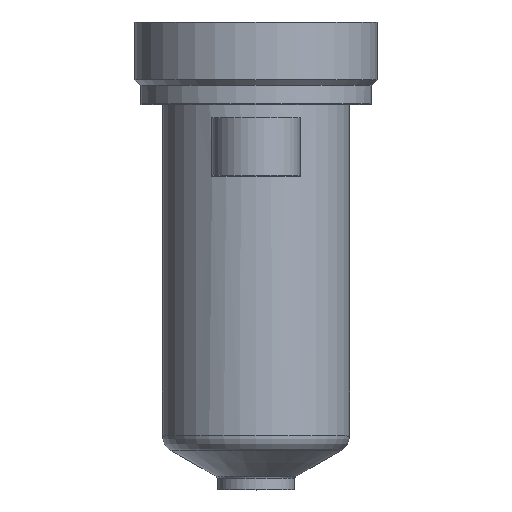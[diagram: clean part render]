
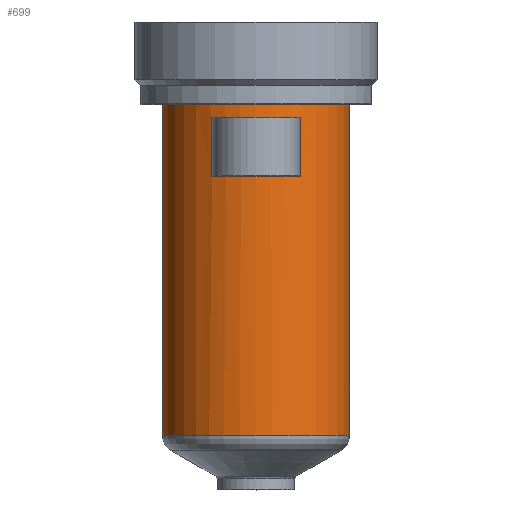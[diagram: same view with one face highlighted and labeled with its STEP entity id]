
A CAD part, top view. The second image highlights one B-rep face of the part: STEP entity #699.
In plain terms, the highlighted cylindrical face has radius 17 mm (diameter 34 mm), a partial arc.
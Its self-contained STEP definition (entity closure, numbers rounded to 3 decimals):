
#191=DIRECTION('',(0.,-1.,0.));
#192=VECTOR('',#191,60.206);
#193=CARTESIAN_POINT('',(17.,0.,0.));
#194=LINE('',#193,#192);
#195=CARTESIAN_POINT('',(0.,-60.206,0.));
#196=DIRECTION('',(0.,1.,0.));
#197=DIRECTION('',(-1.,0.,0.));
#198=AXIS2_PLACEMENT_3D('',#195,#196,#197);
#200=DIRECTION('',(0.,1.,0.));
#201=VECTOR('',#200,60.206);
#202=CARTESIAN_POINT('',(-17.,-60.206,0.));
#203=LINE('',#202,#201);
#204=CARTESIAN_POINT('',(0.,0.,0.));
#205=DIRECTION('',(0.,1.,0.));
#206=DIRECTION('',(-1.,0.,0.));
#207=AXIS2_PLACEMENT_3D('',#204,#205,#206);
#285=DIRECTION('',(0.,1.,0.));
#286=VECTOR('',#285,10.5);
#287=CARTESIAN_POINT('',(-8.,-13.,15.));
#288=LINE('',#287,#286);
#289=CARTESIAN_POINT('',(0.,-13.,0.));
#290=DIRECTION('',(0.,1.,0.));
#291=DIRECTION('',(-0.471,0.,0.882));
#292=AXIS2_PLACEMENT_3D('',#289,#290,#291);
#315=CARTESIAN_POINT('',(0.,-2.5,0.));
#316=DIRECTION('',(0.,-1.,0.));
#317=DIRECTION('',(0.471,0.,0.882));
#318=AXIS2_PLACEMENT_3D('',#315,#316,#317);
#333=DIRECTION('',(0.,1.,0.));
#334=VECTOR('',#333,10.5);
#335=CARTESIAN_POINT('',(8.,-13.,15.));
#336=LINE('',#335,#334);
#394=CARTESIAN_POINT('',(-17.,0.,0.));
#395=CARTESIAN_POINT('',(17.,0.,0.));
#396=VERTEX_POINT('',#394);
#397=VERTEX_POINT('',#395);
#406=CARTESIAN_POINT('',(-8.,-2.5,15.));
#407=VERTEX_POINT('',#406);
#408=CARTESIAN_POINT('',(8.,-2.5,15.));
#409=VERTEX_POINT('',#408);
#446=CARTESIAN_POINT('',(17.,-60.206,0.));
#447=VERTEX_POINT('',#446);
#456=CARTESIAN_POINT('',(-17.,-60.206,0.));
#457=VERTEX_POINT('',#456);
#458=CARTESIAN_POINT('',(-8.,-13.,15.));
#459=CARTESIAN_POINT('',(8.,-13.,15.));
#460=VERTEX_POINT('',#458);
#461=VERTEX_POINT('',#459);
#677=CARTESIAN_POINT('',(0.,16.4,0.));
#678=DIRECTION('',(0.,-1.,0.));
#679=DIRECTION('',(-1.,0.,0.));
#680=AXIS2_PLACEMENT_3D('',#677,#678,#679);
#681=CYLINDRICAL_SURFACE('',#680,17.);
#682=ORIENTED_EDGE('',*,*,#671,.T.);
#684=ORIENTED_EDGE('',*,*,#683,.F.);
#685=ORIENTED_EDGE('',*,*,#667,.T.);
#686=ORIENTED_EDGE('',*,*,#657,.T.);
#687=EDGE_LOOP('',(#682,#684,#685,#686));
#688=FACE_OUTER_BOUND('',#687,.F.);
#690=ORIENTED_EDGE('',*,*,#689,.F.);
#692=ORIENTED_EDGE('',*,*,#691,.T.);
#694=ORIENTED_EDGE('',*,*,#693,.T.);
#696=ORIENTED_EDGE('',*,*,#695,.T.);
#697=EDGE_LOOP('',(#690,#692,#694,#696));
#698=FACE_BOUND('',#697,.F.);
#699=ADVANCED_FACE('',(#688,#698),#681,.T.);
#199=CIRCLE('',#198,17.);
#208=CIRCLE('',#207,17.);
#293=CIRCLE('',#292,17.);
#319=CIRCLE('',#318,17.);
#657=EDGE_CURVE('',#396,#397,#208,.T.);
#667=EDGE_CURVE('',#457,#396,#203,.T.);
#671=EDGE_CURVE('',#397,#447,#194,.T.);
#683=EDGE_CURVE('',#457,#447,#199,.T.);
#689=EDGE_CURVE('',#460,#407,#288,.T.);
#691=EDGE_CURVE('',#460,#461,#293,.T.);
#693=EDGE_CURVE('',#461,#409,#336,.T.);
#695=EDGE_CURVE('',#409,#407,#319,.T.);
